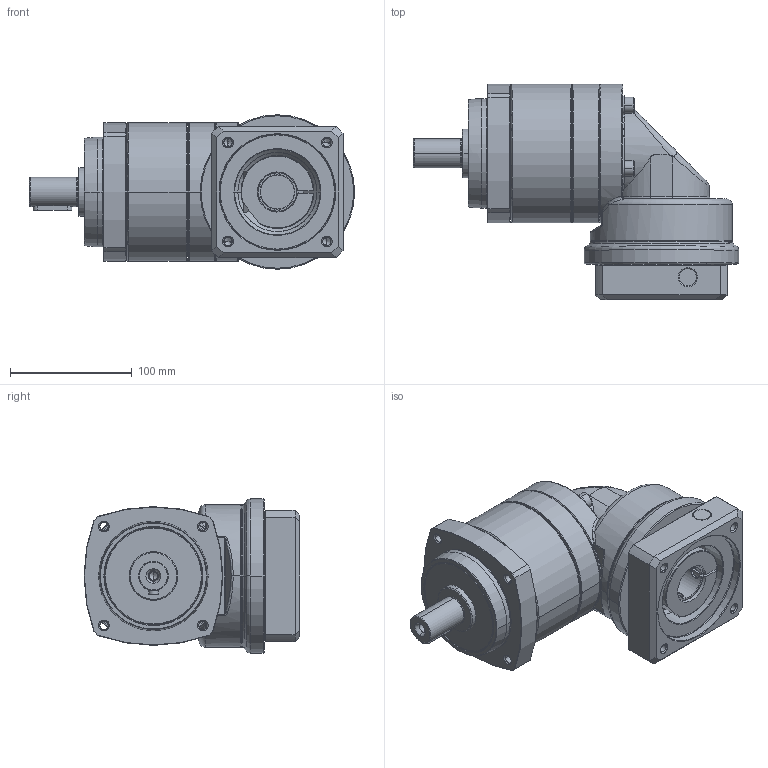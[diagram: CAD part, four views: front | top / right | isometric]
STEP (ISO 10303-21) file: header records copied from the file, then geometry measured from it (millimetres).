
FILE_DESCRIPTION((''),'2;1');
FILE_NAME('PS2R-D_1ST_28-P0411600101_ASM','2016-05-30T',('d01943'),(''),'PRO/ENGINEER BY PARAMETRIC TECHNOLOGY CORPORATION, 2008410','PRO/ENGINEER BY PARAMETRIC TECHNOLOGY CORPORATION, 2008410','');
FILE_SCHEMA(('CONFIG_CONTROL_DESIGN'));
Length unit declared in the file: millimetre
Products named in the file (12): P1328410001; P0250400001; P0350401401; P1349400001; P1017400001; P0713402001; P0503600008; P1350400201; P0411600101; P1702500001; 2111B108035; PS2R-D_1ST_28-P0411600101_ASM
Assembly tree (14 placements, depth 2):
  PS2R-D_1ST_28-P0411600101_ASM
    P1328410001
    P0250400001
    P0350401401
    P1349400001
    P1017400001
    P0713402001
    P0503600008
    P1350400201
    P0411600101
    P1702500001
    2111B108035  x4
Bounding box: 267.5 x 177.5 x 127 mm (x, y, z)
Volume: 1557858.9 mm3; surface area: 324235.7 mm2
Topology: 14 solids, 14 shells, 700 faces, 1549 edges, 898 vertices
Faces by surface type: cylinder 212, cone 208, plane 154, torus 92, bspline 34
Entity records: 22432 total; most frequent: CARTESIAN_POINT 8942, DIRECTION 2969, ORIENTED_EDGE 2622, EDGE_CURVE 1311, AXIS2_PLACEMENT_3D 1256, VERTEX_POINT 778, EDGE_LOOP 681, CIRCLE 663
